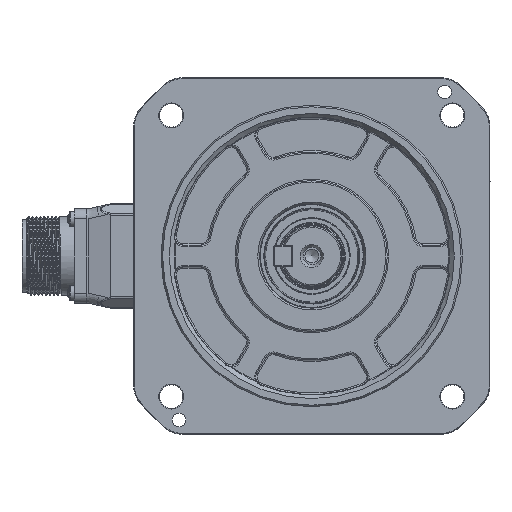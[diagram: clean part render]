
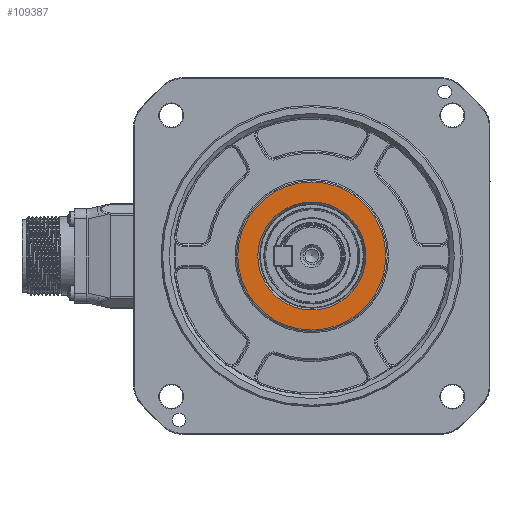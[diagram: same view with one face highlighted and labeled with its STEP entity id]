
A CAD part, left-side view. The second image highlights one B-rep face of the part: STEP entity #109387.
In plain terms, the highlighted planar face has unit normal (-1, 0, 0).
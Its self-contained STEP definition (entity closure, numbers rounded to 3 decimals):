
#10380 = EDGE_CURVE ( 'NONE', #33312, #33312, #102480, .T. ) ;
#21399 = AXIS2_PLACEMENT_3D ( 'NONE', #124949, #117037, #105921 ) ;
#23445 = ORIENTED_EDGE ( 'NONE', *, *, #10380, .T. ) ;
#26008 = AXIS2_PLACEMENT_3D ( 'NONE', #48544, #28925, #108925 ) ;
#28925 = DIRECTION ( 'NONE',  ( -1., 0., 0. ) ) ;
#33312 = VERTEX_POINT ( 'NONE', #43144 ) ;
#43144 = CARTESIAN_POINT ( 'NONE',  ( 0.8, 0., -27. ) ) ;
#48544 = CARTESIAN_POINT ( 'NONE',  ( 0.8, 0., 0. ) ) ;
#51071 = EDGE_LOOP ( 'NONE', ( #87898 ) ) ;
#52803 = FACE_OUTER_BOUND ( 'NONE', #58674, .T. ) ;
#53757 = CARTESIAN_POINT ( 'NONE',  ( 0.8, 0., 0. ) ) ;
#58674 = EDGE_LOOP ( 'NONE', ( #23445 ) ) ;
#64809 = EDGE_CURVE ( 'NONE', #103330, #103330, #120304, .T. ) ;
#73442 = DIRECTION ( 'NONE',  ( 0., 0., -1. ) ) ;
#83645 = CARTESIAN_POINT ( 'NONE',  ( 0.8, 0., -19.693 ) ) ;
#84936 = PLANE ( 'NONE',  #21399 ) ;
#87898 = ORIENTED_EDGE ( 'NONE', *, *, #64809, .F. ) ;
#94091 = AXIS2_PLACEMENT_3D ( 'NONE', #53757, #114770, #73442 ) ;
#102480 = CIRCLE ( 'NONE', #94091, 27. ) ;
#103330 = VERTEX_POINT ( 'NONE', #83645 ) ;
#105921 = DIRECTION ( 'NONE',  ( 0., 0., -1. ) ) ;
#108925 = DIRECTION ( 'NONE',  ( 0., 0., -1. ) ) ;
#109387 = ADVANCED_FACE ( 'NONE', ( #115759, #52803 ), #84936, .F. ) ;
#114770 = DIRECTION ( 'NONE',  ( -1., 0., 0. ) ) ;
#115759 = FACE_BOUND ( 'NONE', #51071, .T. ) ;
#117037 = DIRECTION ( 'NONE',  ( 1., 0., 0. ) ) ;
#120304 = CIRCLE ( 'NONE', #26008, 19.693 ) ;
#124949 = CARTESIAN_POINT ( 'NONE',  ( 0.8, 27.5, 0. ) ) ;
